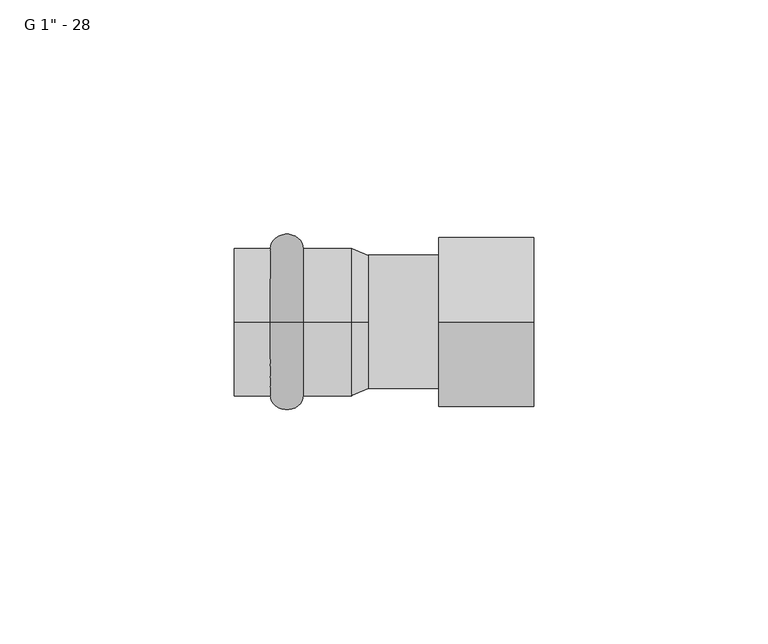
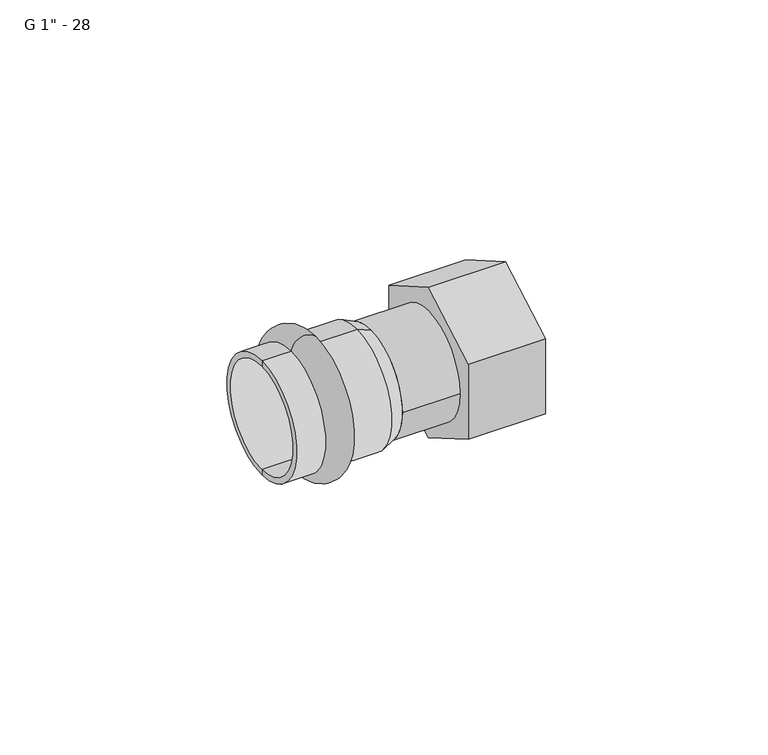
"""IFC4 building model written with IfcOpenShell, lengths in millimetres: pipe fitting geometry."""

import ifcopenshell
import ifcopenshell.guid

model = None  # the IFC model being written
_history = None  # IfcOwnerHistory: only IFC2X3 demands one
_inside = {}  # id of a spatial element -> (the spatial element, [elements in it])
_under = {}  # id of a project, library or spatial element -> (it, [spatial elements below it])
_declared = {}  # id of a project -> (the project, [libraries it declares])
_typed = {}  # id of a type object -> (the type object, [elements of that type])
_made_of = {}  # id of a material, layer set ... -> (it, [elements and type objects made of it])


def new_model(schema):
    """Start an empty IFC model of exactly this schema.

    Asked for "IFC4X3", IfcOpenShell would pick the latest addendum, in which some entities
    have other attributes; the version numbers below select the first issue.
    IFC2X3 requires an IfcOwnerHistory on every rooted entity: one is made here for all.
    """
    global model, _history
    if schema == "IFC4X3":
        model = ifcopenshell.file(schema_version=(4, 3, 0, 0))
    else:
        model = ifcopenshell.file(schema=schema)
    _inside.clear()
    _under.clear()
    _declared.clear()
    _typed.clear()
    _made_of.clear()
    _history = None
    if model.schema == "IFC2X3":
        org = make("IfcOrganization", Name="unknown")
        user = make(
            "IfcPersonAndOrganization",
            ThePerson=make("IfcPerson", FamilyName="unknown"),
            TheOrganization=org,
        )
        app = make(
            "IfcApplication",
            ApplicationDeveloper=org,
            Version="unknown",
            ApplicationFullName="unknown",
            ApplicationIdentifier="unknown",
        )
        _history = make(
            "IfcOwnerHistory",
            OwningUser=user,
            OwningApplication=app,
            ChangeAction="ADDED",
            CreationDate=0,
        )
    return model


def make(cls, **values):
    """One entity of the class cls with the attributes given. An attribute that is None is left unset."""
    return model.create_entity(
        cls, **{name: value for name, value in values.items() if value is not None}
    )


def rooted(cls, **values):
    """An entity with a GlobalId (a new one), such as an element, a storey or a relation."""
    return make(cls, GlobalId=ifcopenshell.guid.new(), OwnerHistory=_history, **values)


def si_unit(unit_type, name, prefix=None):
    """IfcSIUnit, for example si_unit("LENGTHUNIT", "METRE", prefix="MILLI")."""
    return make("IfcSIUnit", UnitType=unit_type, Prefix=prefix, Name=name)


def assignment(units):
    """IfcUnitAssignment: the units of a project."""
    return None if units is None else make("IfcUnitAssignment", Units=units)


def point(xyz):
    """IfcCartesianPoint."""
    return None if xyz is None else make("IfcCartesianPoint", Coordinates=xyz)


def direction(xyz):
    """IfcDirection."""
    return None if xyz is None else make("IfcDirection", DirectionRatios=xyz)


def frame(location, z_axis=None, x_axis=None):
    """IfcAxis2Placement3D, a coordinate frame: its origin and axes. An axis left out is left unset."""
    return make(
        "IfcAxis2Placement3D",
        Location=point(location),
        Axis=direction(z_axis),
        RefDirection=direction(x_axis),
    )


def frame_2d(location, x_axis=None):
    """IfcAxis2Placement2D, a coordinate frame in the plane: its origin and x axis."""
    return make(
        "IfcAxis2Placement2D", Location=point(location), RefDirection=direction(x_axis)
    )


def origin():
    """The frame at (0, 0, 0) with its axes left unset."""
    return frame((0.0, 0.0, 0.0))


def origin_2d():
    """The frame at (0, 0) in the plane with its x axis left unset."""
    return frame_2d((0.0, 0.0))


def place(relative_to, where):
    """IfcLocalPlacement: puts the frame where relative to a parent placement (None: the world)."""
    return make(
        "IfcLocalPlacement", PlacementRelTo=relative_to, RelativePlacement=where
    )


def context(
    kind, dimensions, precision=None, world=None, true_north=None, identifier=None
):
    """IfcGeometricRepresentationContext, for example the 3D "Model" context."""
    return make(
        "IfcGeometricRepresentationContext",
        ContextIdentifier=identifier,
        ContextType=kind,
        CoordinateSpaceDimension=dimensions,
        Precision=precision,
        WorldCoordinateSystem=world,
        TrueNorth=true_north,
    )


def project(units=None, contexts=None):
    """IfcProject with its units and contexts."""
    return rooted(
        "IfcProject",
        Name="project",
        RepresentationContexts=contexts,
        UnitsInContext=assignment(units),
    )


def spatial(cls, under=None, at=None, **own):
    """A site, building, storey or space (cls), placed at a placement, below another one or the project."""
    s = rooted(cls, ObjectPlacement=at, **own)
    if under is not None:
        _under.setdefault(under.id(), (under, []))[1].append(s)
    return s


def polyline(points):
    """IfcPolyline through the points."""
    return make("IfcPolyline", Points=[point(p) for p in points])


def circle_curve(where, radius):
    """IfcCircle in the frame where."""
    return make("IfcCircle", Position=where, Radius=radius)


def ellipse_curve(where, semi_axis1, semi_axis2):
    """IfcEllipse in the frame where."""
    return make(
        "IfcEllipse", Position=where, SemiAxis1=semi_axis1, SemiAxis2=semi_axis2
    )


def trimmed(basis, trim1, trim2, sense, master):
    """IfcTrimmedCurve: the piece of a basis curve between two trims."""
    return make(
        "IfcTrimmedCurve",
        BasisCurve=basis,
        Trim1=trim1,
        Trim2=trim2,
        SenseAgreement=sense,
        MasterRepresentation=master,
    )


def segment(curve, same_sense, transition):
    """IfcCompositeCurveSegment."""
    return make(
        "IfcCompositeCurveSegment",
        Transition=transition,
        SameSense=same_sense,
        ParentCurve=curve,
    )


def composite_curve(segments, self_intersect=None):
    """IfcCompositeCurve: segments joined end to end."""
    return make("IfcCompositeCurve", Segments=segments, SelfIntersect=self_intersect)


def outline(outer, holes=None, kind="AREA"):
    """IfcArbitraryClosedProfileDef: a profile drawn as a closed curve; with holes, ...WithVoids."""
    if holes is None:
        return make("IfcArbitraryClosedProfileDef", ProfileType=kind, OuterCurve=outer)
    return make(
        "IfcArbitraryProfileDefWithVoids",
        ProfileType=kind,
        OuterCurve=outer,
        InnerCurves=holes,
    )


def extrude(swept, where, along, depth):
    """IfcExtrudedAreaSolid: the profile swept, set in the frame where, extruded along a direction by depth."""
    return make(
        "IfcExtrudedAreaSolid",
        SweptArea=swept,
        Position=where,
        ExtrudedDirection=direction(along),
        Depth=depth,
    )


def shape(context_of_items, identifier, shape_type, items):
    """IfcShapeRepresentation: the items that make up one representation, for example the "Body"."""
    return make(
        "IfcShapeRepresentation",
        ContextOfItems=context_of_items,
        RepresentationIdentifier=identifier,
        RepresentationType=shape_type,
        Items=items,
    )


def source(mapping_origin, context_of_items, identifier, shape_type, items):
    """IfcRepresentationMap: a shape defined once, which mapped items show again and again."""
    return make(
        "IfcRepresentationMap",
        MappingOrigin=mapping_origin,
        MappedRepresentation=shape(context_of_items, identifier, shape_type, items),
    )


def transform(
    local_origin,
    x_axis=None,
    y_axis=None,
    z_axis=None,
    scale=None,
    scale2=None,
    scale3=None,
    uniform=True,
):
    """IfcCartesianTransformationOperator3D, or its non-uniform kind. x_axis, y_axis, z_axis: its Axis1, 2, 3."""
    if uniform:
        return make(
            "IfcCartesianTransformationOperator3D",
            Axis1=direction(x_axis),
            Axis2=direction(y_axis),
            LocalOrigin=point(local_origin),
            Scale=scale,
            Axis3=direction(z_axis),
        )
    return make(
        "IfcCartesianTransformationOperator3DnonUniform",
        Axis1=direction(x_axis),
        Axis2=direction(y_axis),
        LocalOrigin=point(local_origin),
        Scale=scale,
        Axis3=direction(z_axis),
        Scale2=scale2,
        Scale3=scale3,
    )


def mapped(mapping_source, mapping_target):
    """IfcMappedItem: shows the shape of a source again, moved by a transform."""
    return make(
        "IfcMappedItem", MappingSource=mapping_source, MappingTarget=mapping_target
    )


def made_of(thing, what):
    """Note that an element or type object is made of a material, layer set ...; save() writes the relation."""
    if what is not None:
        _made_of.setdefault(what.id(), (what, []))[1].append(thing)
    return thing


def element(
    cls,
    number,
    at=None,
    inside=None,
    cuts=None,
    type_object=None,
    material=None,
    context=None,
    identifier="Body",
    shape_type=None,
    held_by="IfcProductDefinitionShape",
    body=None,
    shapes=None,
    **own,
):
    """One element of the class cls, such as IfcWall. Its Tag is "e" and its number.

    at: its placement. inside: the storey or other place that contains it. cuts: it is an
    opening in that element (IfcRelVoidsElement). A single representation is given by context,
    identifier, shape_type and body (its items); several are given by shapes. held_by: the class
    of the entity that holds the representations. save() writes the other relations.
    """
    e = rooted(cls, Tag="e%d" % number, ObjectPlacement=at, **own)
    if body is not None:
        shapes = [shape(context, identifier, shape_type, body)]
    if shapes is not None:
        e.Representation = make(held_by, Representations=shapes)
    if inside is not None:
        _inside.setdefault(inside.id(), (inside, []))[1].append(e)
    if cuts is not None:
        rooted(
            "IfcRelVoidsElement", RelatingBuildingElement=cuts, RelatedOpeningElement=e
        )
    if type_object is not None:
        _typed.setdefault(type_object.id(), (type_object, []))[1].append(e)
    return made_of(e, material)


def aggregate(whole, parts):
    """IfcRelAggregates: a whole, such as a stair, and the parts it consists of."""
    return rooted("IfcRelAggregates", RelatingObject=whole, RelatedObjects=parts)


def save(model, path):
    """Write the relations noted so far, then the file.

    IfcRelAggregates (storeys below a building ...), IfcRelContainedInSpatialStructure (elements
    in a storey), IfcRelDefinesByType, IfcRelAssociatesMaterial and IfcRelDeclares: one each for
    every whole, place, type object, material and project.
    """
    for whole, parts in _under.values():
        aggregate(whole, parts)
    for where, things in _inside.values():
        rooted(
            "IfcRelContainedInSpatialStructure",
            RelatedElements=things,
            RelatingStructure=where,
        )
    for kind, things in _typed.values():
        rooted("IfcRelDefinesByType", RelatedObjects=things, RelatingType=kind)
    for what, things in _made_of.values():
        rooted("IfcRelAssociatesMaterial", RelatedObjects=things, RelatingMaterial=what)
    for by, libraries in _declared.values():
        rooted("IfcRelDeclares", RelatingContext=by, RelatedDefinitions=libraries)
    model.write(path)


def plane_surface(at):
    """IfcPlane: the flat surface through the origin of the frame at, square to its z axis."""
    return make("IfcPlane", Position=at)


def cylinder_surface(at, radius):
    """IfcCylindricalSurface: all points at the distance radius from the z axis of the frame at."""
    return make("IfcCylindricalSurface", Position=at, Radius=radius)


def revolved_surface(curve, axis_point, axis_direction):
    """IfcSurfaceOfRevolution: the curve turned about the line through axis_point along axis_direction."""
    return make(
        "IfcSurfaceOfRevolution",
        SweptCurve=make("IfcArbitraryOpenProfileDef", ProfileType="CURVE", Curve=curve),
        AxisPosition=make("IfcAxis1Placement", Location=point(axis_point), Axis=direction(axis_direction)),
    )


def advanced_brep(points, edges, surfaces, faces):
    """IfcAdvancedBrep: a solid bounded by faces that lie on surfaces and meet in shared edges.

    An edge is (start, end): straight between two places in points (the first is 0);
    or (start, end, curve); or (start, end, curve, False) where it runs against its curve.
    A face is (place in surfaces, loops), or (place, loops, False) where it looks against
    its surface's normal. A loop lists edges by number (the first is 1), with a minus sign
    where the edge is run from its end to its start. The first loop is the outer one.
    """
    corners = [point(p) for p in points]
    vertices = [make("IfcVertexPoint", VertexGeometry=c) for c in corners]
    made = []
    for start, end, *more in edges:
        made.append(
            make(
                "IfcEdgeCurve",
                EdgeStart=vertices[start],
                EdgeEnd=vertices[end],
                EdgeGeometry=more[0] if more else make("IfcPolyline", Points=[corners[start], corners[end]]),
                SameSense=more[1] if len(more) > 1 else True,
            )
        )
    hull = []
    for where, loops, *sense in faces:
        bounds = []
        for j, loop in enumerate(loops):
            ring = [make("IfcOrientedEdge", EdgeElement=made[abs(k) - 1], Orientation=k > 0) for k in loop]
            bounds.append(
                make(
                    "IfcFaceOuterBound" if j == 0 else "IfcFaceBound",
                    Bound=make("IfcEdgeLoop", EdgeList=ring),
                    Orientation=True,
                )
            )
        hull.append(make("IfcAdvancedFace", Bounds=bounds, FaceSurface=surfaces[where], SameSense=sense[0] if sense else True))
    return make("IfcAdvancedBrep", Outer=make("IfcClosedShell", CfsFaces=hull))


def pipe_fitting_0e8537e7(model_context):
    return source(origin(), model_context, "Body", "SolidModel", [
        advanced_brep(
        [(-17.3, 0.0, 15.75), (-17.3, 0.0, -15.75), (-10.3, 0.0, -15.75), (-10.3, 0.0, 15.75)],
        [
            (0, 1, circle_curve(frame((-17.3, 0.0, 0.0), z_axis=(-1.0, 0.0, 0.0), x_axis=(0.0, 0.0, -1.0)), 15.75)),
            (1, 2),
            (2, 3, circle_curve(frame((-10.3, 0.0, 0.0), z_axis=(1.0, 0.0, 0.0), x_axis=(0.0, 0.0, -1.0)), 15.75)),
            (3, 0),
            (1, 0, circle_curve(frame((-17.3, 0.0, 0.0), z_axis=(-1.0, 0.0, 0.0), x_axis=(0.0, 0.0, -1.0)), 15.75)),
            (3, 2, circle_curve(frame((-10.3, 0.0, 0.0), z_axis=(1.0, 0.0, 0.0), x_axis=(0.0, 0.0, -1.0)), 15.75)),
            (2, 1, ellipse_curve(frame((-13.8, 0.0, -15.75), z_axis=(0.0, 1.0, 0.0), x_axis=(-1.0, 0.0, 0.0)), 3.5, 3.1)),
            (0, 3, ellipse_curve(frame((-13.8, 0.0, 15.75), z_axis=(0.0, 1.0, 0.0), x_axis=(-1.0, 0.0, 0.0)), 3.5, 3.1)),
        ],
        [
            revolved_surface(polyline([(-10.3, 0.0, -15.75), (-17.3, 0.0, -15.75)]), (2.7, 0.0, 0.0), (1.0, 0.0, 0.0)),
            revolved_surface(trimmed(ellipse_curve(frame((-13.8, 0.0, -15.75), z_axis=(0.0, -1.0, 0.0), x_axis=(-1.0, 0.0, 0.0)), 3.5, 3.1), [point((-17.3, 0.0, -15.75))], [point((-10.3, 0.0, -15.75))], True, "CARTESIAN"), (2.7, 0.0, 0.0), (1.0, 0.0, 0.0)),
        ],
        [
            (0, [[1, 2, 3, 4]]),
            (0, [[5, -4, 6, -2]]),
            (1, [[-3, 7, -1, 8]]),
            (1, [[-6, -8, -5, -7]]),
        ],
    ),
        advanced_brep(
        [(3.5337785, 0.0, 14.25), (3.5337785, 0.0, -14.25), (0.0, 0.0, -15.75), (0.0, 0.0, 15.75), (-25.0, 0.0, 14.25), (-25.0, 0.0, -14.25), (-25.0, 0.0, 15.75), (-25.0, 0.0, -15.75)],
        [
            (0, 1, circle_curve(frame((3.5337785, 0.0, 0.0), z_axis=(-1.0, 0.0, 0.0), x_axis=(0.0, 0.0, -1.0)), 14.25)),
            (1, 2),
            (2, 3, circle_curve(frame((0.0, 0.0, 0.0), z_axis=(1.0, 0.0, 0.0), x_axis=(0.0, 0.0, -1.0)), 15.75)),
            (3, 0),
            (1, 0, circle_curve(frame((3.5337785, 0.0, 0.0), z_axis=(-1.0, 0.0, 0.0), x_axis=(0.0, 0.0, -1.0)), 14.25)),
            (3, 2, circle_curve(frame((0.0, 0.0, 0.0), z_axis=(1.0, 0.0, 0.0), x_axis=(0.0, 0.0, -1.0)), 15.75)),
            (4, 5, circle_curve(frame((-25.0, 0.0, 0.0), z_axis=(-1.0, 0.0, 0.0), x_axis=(0.0, 0.0, -1.0)), 14.25)),
            (5, 1),
            (0, 4),
            (5, 4, circle_curve(frame((-25.0, 0.0, 0.0), z_axis=(-1.0, 0.0, 0.0), x_axis=(0.0, 0.0, -1.0)), 14.25)),
            (6, 7, circle_curve(frame((-25.0, 0.0, 0.0), z_axis=(-1.0, 0.0, 0.0), x_axis=(0.0, 0.0, -1.0)), 15.75)),
            (7, 5),
            (4, 6),
            (7, 6, circle_curve(frame((-25.0, 0.0, 0.0), z_axis=(-1.0, 0.0, 0.0), x_axis=(0.0, 0.0, -1.0)), 15.75)),
            (2, 7),
            (6, 3),
        ],
        [
            revolved_surface(polyline([(0.0, 0.0, -15.75), (3.5337785, 0.0, -14.25)]), (2.7, 0.0, 0.0), (1.0, 0.0, 0.0)),
            revolved_surface(polyline([(3.5337785, 0.0, -14.25), (-25.0, 0.0, -14.25)]), (2.7, 0.0, 0.0), (1.0, 0.0, 0.0)),
            plane_surface(frame((-25.0, 0.0, 0.0), z_axis=(-1.0, 0.0, 0.0), x_axis=(0.0, 0.0, -1.0))),
            cylinder_surface(frame((2.7, 0.0, 0.0), z_axis=(1.0, 0.0, 0.0), x_axis=(0.0, 0.0, -1.0)), 15.75),
        ],
        [
            (0, [[1, 2, 3, 4]]),
            (0, [[5, -4, 6, -2]]),
            (1, [[7, 8, -1, 9]]),
            (1, [[10, -9, -5, -8]]),
            (2, [[11, 12, -7, 13]]),
            (2, [[14, -13, -10, -12]]),
            (3, [[-3, 15, -11, 16]]),
            (3, [[-6, -16, -14, -15]]),
        ],
    ),
        extrude(outline(composite_curve([segment(trimmed(circle_curve(origin_2d(), 14.25), [point((-14.25, 0.0))], [point((14.25, 0.0))], False, "CARTESIAN"), True, "CONTINUOUS"), segment(trimmed(circle_curve(origin_2d(), 14.25), [point((14.25, 0.0))], [point((-14.25, 0.0))], False, "CARTESIAN"), True, "CONTINUOUS")], self_intersect=False)), frame((3.5337785, 0.0, 0.0), z_axis=(1.0, 0.0, 0.0), x_axis=(0.0, 1.0, 0.0)), (0.0, 0.0, 1.0), 15.1),
        advanced_brep(
        [(38.8337785, -18.0, -10.3923048), (18.6337785, -18.0, -10.3923048), (18.6337785, 0.0, -20.7846097), (38.8337785, 0.0, -20.7846097), (18.6337785, 18.0, -10.3923048), (38.8337785, 18.0, -10.3923048), (38.8337785, 18.0, 10.3923048), (18.6337785, 18.0, 10.3923048), (18.6337785, 0.0, 20.7846097), (38.8337785, 0.0, 20.7846097), (18.6337785, -18.0, 10.3923048), (38.8337785, -18.0, 10.3923048), (38.8337785, -16.75, 0.0), (38.8337785, 16.75, 0.0), (18.6337785, -8.0, -4.6188022), (18.6337785, 0.0, -9.2376043), (18.6337785, 8.0, -4.6188022), (18.6337785, 8.0, 4.6188022), (18.6337785, 0.0, 9.2376043), (18.6337785, -8.0, 4.6188022), (23.4337785, -16.75, 0.0), (23.4337785, 16.75, 0.0), (23.4337785, 0.0, -9.2376043), (23.4337785, -8.0, -4.6188022), (23.4337785, -8.0, 4.6188022), (23.4337785, 0.0, 9.2376043), (23.4337785, 8.0, 4.6188022), (23.4337785, 8.0, -4.6188022)],
        [
            (0, 1),
            (1, 2),
            (2, 3),
            (3, 0),
            (2, 4),
            (4, 5),
            (5, 3),
            (6, 7),
            (7, 8),
            (8, 9),
            (9, 6),
            (8, 10),
            (10, 11),
            (11, 9),
            (4, 7),
            (6, 5),
            (11, 0),
            (12, 13, circle_curve(frame((38.8337785, 0.0, 0.0), z_axis=(-1.0, 0.0, 0.0), x_axis=(0.0, 1.0, 0.0)), 16.75)),
            (13, 12, circle_curve(frame((38.8337785, 0.0, 0.0), z_axis=(-1.0, 0.0, 0.0), x_axis=(0.0, 1.0, 0.0)), 16.75)),
            (1, 10),
            (14, 15),
            (15, 16),
            (16, 17),
            (17, 18),
            (18, 19),
            (19, 14),
            (20, 21, circle_curve(frame((23.4337785, 0.0, 0.0), z_axis=(1.0, 0.0, 0.0), x_axis=(0.0, 1.0, 0.0)), 16.75)),
            (21, 20, circle_curve(frame((23.4337785, 0.0, 0.0), z_axis=(1.0, 0.0, 0.0), x_axis=(0.0, 1.0, 0.0)), 16.75)),
            (22, 23),
            (23, 24),
            (24, 25),
            (25, 26),
            (26, 27),
            (27, 22),
            (21, 13),
            (12, 20),
            (14, 23),
            (22, 15),
            (27, 16),
            (17, 26),
            (25, 18),
            (24, 19),
        ],
        [
            plane_surface(frame((18.6337785, -18.0, -10.3923048), z_axis=(0.0, -0.5000000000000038, -0.8660254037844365), x_axis=(0.0, 0.8660254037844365, -0.5000000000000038))),
            plane_surface(frame((18.6337785, 0.0, -20.7846097), z_axis=(0.0, 0.49999999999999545, -0.8660254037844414), x_axis=(0.0, 0.8660254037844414, 0.49999999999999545))),
            plane_surface(frame((18.6337785, 18.0, 10.3923048), z_axis=(0.0, 0.5000000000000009, 0.8660254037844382), x_axis=(0.0, -0.8660254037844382, 0.5000000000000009))),
            plane_surface(frame((18.6337785, 0.0, 20.7846097), z_axis=(0.0, -0.4999999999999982, 0.8660254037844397), x_axis=(0.0, -0.8660254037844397, -0.4999999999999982))),
            plane_surface(frame((18.6337785, 18.0, -10.3923048), z_axis=(0.0, 1.0, 0.0), x_axis=(0.0, 0.0, 1.0))),
            plane_surface(frame((38.8337785, -18.0, 10.3923048), z_axis=(1.0, 0.0, 0.0), x_axis=(0.0, 0.0, -1.0))),
            plane_surface(frame((18.6337785, -8.0, 4.6188022), z_axis=(-1.0, 0.0, 0.0), x_axis=(0.0, 0.0, -1.0))),
            plane_surface(frame((18.6337785, -18.0, 10.3923048), z_axis=(0.0, -1.0, 0.0), x_axis=(0.0, 0.0, -1.0))),
            plane_surface(frame((23.4337785, 16.75, 0.0), z_axis=(1.0, 0.0, 0.0), x_axis=(0.0, 0.0, -1.0))),
            revolved_surface(polyline([(38.8337785, 16.75, 0.0), (23.4337785, 16.75, 0.0)]), (23.4337785, 0.0, 0.0), (1.0, 0.0, 0.0)),
            plane_surface(frame((38.8337785, -8.0, -4.6188022), z_axis=(0.0, 0.5000000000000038, 0.8660254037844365), x_axis=(0.0, 0.8660254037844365, -0.5000000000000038))),
            plane_surface(frame((38.8337785, 0.0, -9.2376043), z_axis=(0.0, -0.4999999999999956, 0.8660254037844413), x_axis=(0.0, 0.8660254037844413, 0.4999999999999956))),
            plane_surface(frame((38.8337785, 8.0, 4.6188022), z_axis=(0.0, -0.5000000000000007, -0.8660254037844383), x_axis=(0.0, -0.8660254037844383, 0.5000000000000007))),
            plane_surface(frame((38.8337785, 0.0, 9.2376043), z_axis=(0.0, 0.49999999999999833, -0.8660254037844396), x_axis=(0.0, -0.8660254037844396, -0.49999999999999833))),
            plane_surface(frame((38.8337785, 8.0, -4.6188022), z_axis=(0.0, -1.0, 0.0), x_axis=(0.0, 0.0, 1.0))),
            plane_surface(frame((38.8337785, -8.0, 4.6188022), z_axis=(0.0, 1.0, 0.0), x_axis=(0.0, 0.0, -1.0))),
        ],
        [
            (0, [[1, 2, 3, 4]]),
            (1, [[-3, 5, 6, 7]]),
            (2, [[8, 9, 10, 11]]),
            (3, [[-10, 12, 13, 14]]),
            (4, [[-6, 15, -8, 16]]),
            (5, [[-4, -7, -16, -11, -14, 17], [18, 19]]),
            (6, [[-2, 20, -12, -9, -15, -5], [21, 22, 23, 24, 25, 26]]),
            (7, [[-1, -17, -13, -20]]),
            (8, [[27, 28], [29, 30, 31, 32, 33, 34]]),
            (9, [[-28, 35, -18, 36]]),
            (9, [[-27, -36, -19, -35]]),
            (10, [[-21, 37, -29, 38]]),
            (11, [[-22, -38, -34, 39]]),
            (12, [[-24, 40, -32, 41]]),
            (13, [[-25, -41, -31, 42]]),
            (14, [[-23, -39, -33, -40]]),
            (15, [[-26, -42, -30, -37]]),
        ],
    ),
    ])


if __name__ == "__main__":
    model = new_model("IFC4")
    model_context = context("Model", 3, world=origin())
    ifc_project = project(units=[si_unit("LENGTHUNIT", "METRE", prefix="MILLI")], contexts=[model_context])
    site = spatial("IfcSite", under=ifc_project)
    building = spatial("IfcBuilding", under=site)
    placement = place(None, origin())
    pipe_fitting_shape = pipe_fitting_0e8537e7(model_context)
    element("IfcPipeFitting", 1, ObjectType="РЕХАУ_Пресс Муфта с накидной гайкой : G 1\" - 28", at=placement, inside=building, context=model_context, shape_type="MappedRepresentation", body=[
        mapped(pipe_fitting_shape, transform((0.0, 0.0, 0.0), x_axis=(1.0, 0.0, 0.0), y_axis=(0.0, 1.0, 0.0), z_axis=(0.0, 0.0, 1.0))),
    ])
    save(model, "model.ifc")
